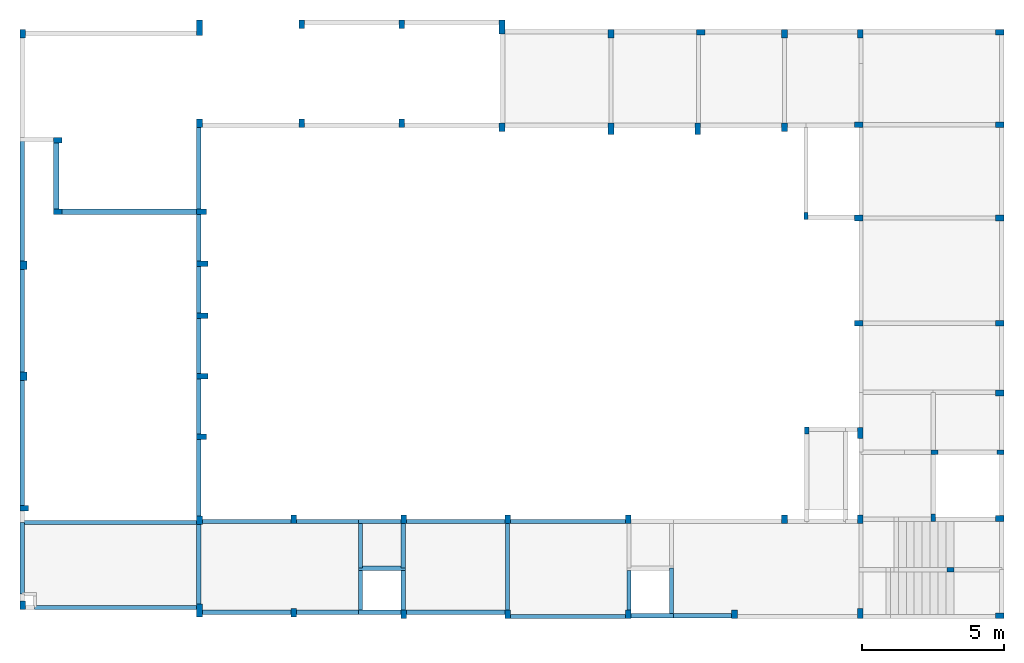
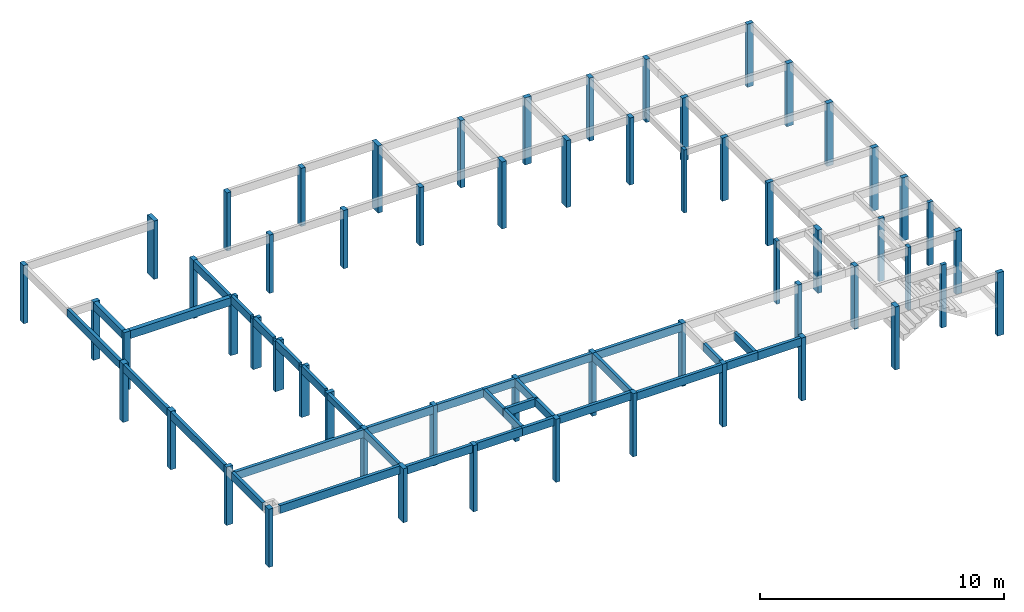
# One storey, part 1 of 11: 58 columns, 35 beams.
"""IFC4 building model written with IfcOpenShell, lengths in centimetres."""

from ifc_helpers import new_model, si_unit, derived_unit, frame, origin_with_axes, origin_2d_with_axis, place, context, project, spatial, rectangle, extrude, material, element, save


model = new_model("IFC4")

# Units and contexts
model_context = context("Model", 3, precision=1e-05, world=origin_with_axes(), identifier="Body")
ifc_project = project(units=[si_unit("LENGTHUNIT", "METRE", prefix="CENTI"), si_unit("VOLUMEUNIT", "CUBIC_METRE"), si_unit("AREAUNIT", "SQUARE_METRE"), si_unit("POWERUNIT", "WATT"), si_unit("LUMINOUSFLUXUNIT", "LUMEN"), si_unit("ELECTRICCURRENTUNIT", "AMPERE"), si_unit("PRESSUREUNIT", "PASCAL", prefix="KILO"), si_unit("MASSUNIT", "GRAM", prefix="KILO"), si_unit("PLANEANGLEUNIT", "RADIAN"), derived_unit("VOLUMETRICFLOWRATEUNIT", [(si_unit("LENGTHUNIT", "METRE"), 3), (si_unit("TIMEUNIT", "SECOND"), -1)])], contexts=[model_context])

# Site, building, storey
site_placement = place(None, origin_with_axes())
site = spatial("IfcSite", under=ifc_project, at=site_placement)
building_placement = place(site_placement, frame((0.0, 0.0, -295.0)))
building = spatial("IfcBuilding", under=site, at=building_placement)
placement_1 = place(building_placement, origin_with_axes())
placement_2 = place(placement_1, frame((0.0, 0.0, 101.0), z_axis=(0.0, 0.0, 1.0), x_axis=(1.0, 0.0, 0.0)))
placement_3 = place(placement_2, frame((0.0, 0.0, 204.0), z_axis=(0.0, 0.0, 1.0), x_axis=(1.0, 0.0, 0.0)))
storey_placement = place(placement_3, frame((0.0, 0.0, 292.0), z_axis=(0.0, 0.0, 1.0), x_axis=(1.0, 0.0, 0.0)))
storey = spatial("IfcBuildingStorey", under=building, at=storey_placement, Name="PAVTO 01", CompositionType="ELEMENT", Elevation=302.0)

# Columns
ifc_material = material(Name="Concreto")
column_1_placement = place(storey_placement, frame((561.73, -5119.55, 0.0), z_axis=(0.0, 0.0, 1.0), x_axis=(1.0, 0.0, 0.0)))
element("IfcColumn", 1, at=column_1_placement, inside=storey, material=ifc_material, Name="P1", context=model_context, shape_type="SolidModel", body=[
    extrude(rectangle(XDim=20.0, YDim=30.0, at=origin_2d_with_axis()), origin_with_axes(), (0.0, 0.0, -1.0), 292.0),
])
column_2_placement = place(storey_placement, frame((4001.76, -5114.55, 0.0), z_axis=(0.0, 0.0, 1.0), x_axis=(1.0, 0.0, 0.0)))
element("IfcColumn", 2, at=column_2_placement, inside=storey, material=ifc_material, Name="P10", context=model_context, shape_type="SolidModel", body=[
    extrude(rectangle(XDim=20.0, YDim=30.0, at=origin_2d_with_axis()), frame((0.0, 0.0, 0.0), z_axis=(0.0, 0.0, 1.0), x_axis=(0.0, 1.0, 0.0)), (0.0, 0.0, -1.0), 316.0),
])
for number, where, z_axis, x_axis, name in (
    (3, (1183.9, -5434.69, 0.0), (0.0, 0.0, 1.0), (1.0, 0.0, 0.0), "P11"),
    (4, (1544.4, -5434.69, 0.0), (0.0, 0.0, 1.0), (1.0, 0.0, 0.0), "P12"),
    (5, (1895.85, -5434.69, 0.0), (0.0, 0.0, 1.0), (1.0, 0.0, 0.0), "P13"),
    (6, (2248.73, -5449.62, 0.0), (0.0, 0.0, 1.0), (1.0, 0.0, 0.0), "P14"),
):
    element("IfcColumn", number, at=place(storey_placement, frame(where, z_axis=z_axis, x_axis=x_axis)), inside=storey, material=ifc_material, Name=name, context=model_context, shape_type="SolidModel", body=[
        extrude(rectangle(XDim=20.0, YDim=30.0, at=origin_2d_with_axis()), origin_with_axes(), (0.0, 0.0, -1.0), 292.0),
    ])
for number, where, z_axis, x_axis, name in (
    (7, (2632.84, -5454.62, 0.0), (0.0, 0.0, 1.0), (1.0, 0.0, 0.0), "P15"),
    (8, (2938.28, -5454.62, 0.0), (0.0, 0.0, 1.0), (1.0, 0.0, 0.0), "P16"),
):
    element("IfcColumn", number, at=place(storey_placement, frame(where, z_axis=z_axis, x_axis=x_axis)), inside=storey, material=ifc_material, Name=name, context=model_context, shape_type="SolidModel", body=[
        extrude(rectangle(XDim=20.0, YDim=40.0, at=origin_2d_with_axis()), origin_with_axes(), (0.0, 0.0, -1.0), 336.0),
    ])
column_3_placement = place(storey_placement, frame((3243.73, -5449.62, 0.0), z_axis=(0.0, 0.0, 1.0), x_axis=(1.0, 0.0, 0.0)))
element("IfcColumn", 9, at=column_3_placement, inside=storey, material=ifc_material, Name="P17", context=model_context, shape_type="SolidModel", body=[
    extrude(rectangle(XDim=20.0, YDim=30.0, at=origin_2d_with_axis()), origin_with_axes(), (0.0, 0.0, -1.0), 336.0),
])
for number, where, z_axis, x_axis, name in (
    (10, (3505.71, -5439.69, 0.0), (0.0, 0.0, 1.0), (1.0, 0.0, 0.0), "P18"),
    (11, (4001.74, -5439.69, 0.0), (0.0, 0.0, 1.0), (1.0, 0.0, 0.0), "P19"),
):
    element("IfcColumn", number, at=place(storey_placement, frame(where, z_axis=z_axis, x_axis=x_axis)), inside=storey, material=ifc_material, Name=name, context=model_context, shape_type="SolidModel", body=[
        extrude(rectangle(XDim=20.0, YDim=30.0, at=origin_2d_with_axis()), frame((0.0, 0.0, 0.0), z_axis=(0.0, 0.0, 1.0), x_axis=(0.0, -1.0, 0.0)), (0.0, 0.0, -1.0), 316.0),
    ])
column_4_placement = place(storey_placement, frame((1183.9, -5098.61, 0.0), z_axis=(0.0, 0.0, 1.0), x_axis=(1.0, 0.0, 0.0)))
element("IfcColumn", 12, at=column_4_placement, inside=storey, material=ifc_material, Name="P2", context=model_context, shape_type="SolidModel", body=[
    extrude(rectangle(XDim=20.0, YDim=55.0, at=origin_2d_with_axis()), origin_with_axes(), (0.0, 0.0, -1.0), 292.0),
])
for number, where, z_axis, x_axis, name in (
    (13, (683.93, -5494.16, 0.0), (0.0, 0.0, 1.0), (1.0, 0.0, 0.0), "P20"),
    (14, (683.93, -5746.84, 0.0), (0.0, 0.0, 1.0), (1.0, 0.0, 0.0), "P22"),
):
    element("IfcColumn", number, at=place(storey_placement, frame(where, z_axis=z_axis, x_axis=x_axis)), inside=storey, material=ifc_material, Name=name, context=model_context, shape_type="SolidModel", body=[
        extrude(rectangle(XDim=20.0, YDim=30.0, at=origin_2d_with_axis()), frame((0.0, 0.0, 0.0), z_axis=(0.0, 0.0, 1.0), x_axis=(0.0, 1.0, 0.0)), (0.0, 0.0, -1.0), 292.0),
    ])
column_5_placement = place(storey_placement, frame((1191.4, -5746.84, 0.0), z_axis=(0.0, 0.0, 1.0), x_axis=(1.0, 0.0, 0.0)))
element("IfcColumn", 15, at=column_5_placement, inside=storey, material=ifc_material, Name="P23", context=model_context, shape_type="SolidModel", body=[
    extrude(rectangle(XDim=20.0, YDim=35.0, at=origin_2d_with_axis()), frame((0.0, 0.0, 0.0), z_axis=(0.0, 0.0, 1.0), x_axis=(0.0, 1.0, 0.0)), (0.0, 0.0, -1.0), 292.0),
])
column_6_placement = place(storey_placement, frame((3319.4, -5761.05, 0.0), z_axis=(0.0, 0.0, 1.0), x_axis=(1.0, 0.0, 0.0)))
element("IfcColumn", 16, at=column_6_placement, inside=storey, material=ifc_material, Name="P24", context=model_context, shape_type="SolidModel", body=[
    extrude(rectangle(XDim=15.0, YDim=25.0, at=origin_2d_with_axis()), origin_with_axes(), (0.0, 0.0, -1.0), 316.0),
])
for number, where, z_axis, x_axis, name in (
    (17, (3505.73, -5768.55, 0.0), (0.0, 0.0, 1.0), (1.0, 0.0, 0.0), "P25"),
    (18, (4001.76, -5768.55, 0.0), (0.0, 0.0, 1.0), (1.0, 0.0, 0.0), "P26"),
):
    element("IfcColumn", number, at=place(storey_placement, frame(where, z_axis=z_axis, x_axis=x_axis)), inside=storey, material=ifc_material, Name=name, context=model_context, shape_type="SolidModel", body=[
        extrude(rectangle(XDim=20.0, YDim=30.0, at=origin_2d_with_axis()), frame((0.0, 0.0, 0.0), z_axis=(0.0, 0.0, 1.0), x_axis=(0.0, -1.0, 0.0)), (0.0, 0.0, -1.0), 316.0),
    ])
column_7_placement = place(storey_placement, frame((564.23, -5934.85, 0.0), z_axis=(0.0, 0.0, 1.0), x_axis=(1.0, 0.0, 0.0)))
element("IfcColumn", 19, at=column_7_placement, inside=storey, material=ifc_material, Name="P27", context=model_context, shape_type="SolidModel", body=[
    extrude(rectangle(XDim=25.0, YDim=30.0, at=origin_2d_with_axis()), origin_with_axes(), (0.0, 0.0, -1.0), 292.0),
])
column_8_placement = place(storey_placement, frame((1193.9, -5929.85, 0.0), z_axis=(0.0, 0.0, 1.0), x_axis=(1.0, 0.0, 0.0)))
element("IfcColumn", 20, at=column_8_placement, inside=storey, material=ifc_material, Name="P28", context=model_context, shape_type="SolidModel", body=[
    extrude(rectangle(XDim=20.0, YDim=40.0, at=origin_2d_with_axis()), frame((0.0, 0.0, 0.0), z_axis=(0.0, 0.0, 1.0), x_axis=(0.0, -1.0, 0.0)), (0.0, 0.0, -1.0), 251.0),
])
column_9_placement = place(storey_placement, frame((1193.9, -6112.7, 0.0), z_axis=(0.0, 0.0, 1.0), x_axis=(1.0, 0.0, 0.0)))
element("IfcColumn", 21, at=column_9_placement, inside=storey, material=ifc_material, Name="P29", context=model_context, shape_type="SolidModel", body=[
    extrude(rectangle(XDim=20.0, YDim=40.0, at=origin_2d_with_axis()), frame((0.0, 0.0, 0.0), z_axis=(0.0, 0.0, 1.0), x_axis=(0.0, 1.0, 0.0)), (0.0, 0.0, -1.0), 251.0),
])
column_10_placement = place(storey_placement, frame((1544.4, -5086.11, 0.0), z_axis=(0.0, 0.0, 1.0), x_axis=(1.0, 0.0, 0.0)))
element("IfcColumn", 22, at=column_10_placement, inside=storey, material=ifc_material, Name="P3", context=model_context, shape_type="SolidModel", body=[
    extrude(rectangle(XDim=20.0, YDim=30.0, at=origin_2d_with_axis()), origin_with_axes(), (0.0, 0.0, -1.0), 292.0),
])
for number, where, z_axis, x_axis, name in (
    (23, (3505.73, -6138.55, 0.0), (0.0, 0.0, 1.0), (1.0, 0.0, 0.0), "P30"),
    (24, (4001.76, -6138.55, 0.0), (0.0, 0.0, 1.0), (1.0, 0.0, 0.0), "P31"),
):
    element("IfcColumn", number, at=place(storey_placement, frame(where, z_axis=z_axis, x_axis=x_axis)), inside=storey, material=ifc_material, Name=name, context=model_context, shape_type="SolidModel", body=[
        extrude(rectangle(XDim=20.0, YDim=30.0, at=origin_2d_with_axis()), frame((0.0, 0.0, 0.0), z_axis=(0.0, 0.0, 1.0), x_axis=(0.0, -1.0, 0.0)), (0.0, 0.0, -1.0), 316.0),
    ])
column_11_placement = place(storey_placement, frame((564.23, -6325.62, 0.0), z_axis=(0.0, 0.0, 1.0), x_axis=(1.0, 0.0, 0.0)))
element("IfcColumn", 25, at=column_11_placement, inside=storey, material=ifc_material, Name="P32", context=model_context, shape_type="SolidModel", body=[
    extrude(rectangle(XDim=25.0, YDim=30.0, at=origin_2d_with_axis()), origin_with_axes(), (0.0, 0.0, -1.0), 292.0),
])
column_12_placement = place(storey_placement, frame((1193.9, -6325.62, 0.0), z_axis=(0.0, 0.0, 1.0), x_axis=(1.0, 0.0, 0.0)))
element("IfcColumn", 26, at=column_12_placement, inside=storey, material=ifc_material, Name="P33", context=model_context, shape_type="SolidModel", body=[
    extrude(rectangle(XDim=20.0, YDim=40.0, at=origin_2d_with_axis()), frame((0.0, 0.0, 0.0), z_axis=(0.0, 0.0, 1.0), x_axis=(0.0, 1.0, 0.0)), (0.0, 0.0, -1.0), 251.0),
])
column_13_placement = place(storey_placement, frame((4001.76, -6384.65, 0.0), z_axis=(0.0, 0.0, 1.0), x_axis=(1.0, 0.0, 0.0)))
element("IfcColumn", 27, at=column_13_placement, inside=storey, material=ifc_material, Name="P34", context=model_context, shape_type="SolidModel", body=[
    extrude(rectangle(XDim=20.0, YDim=30.0, at=origin_2d_with_axis()), frame((0.0, 0.0, 0.0), z_axis=(0.0, 0.0, 1.0), x_axis=(0.0, -1.0, 0.0)), (0.0, 0.0, -1.0), 316.0),
])
column_14_placement = place(storey_placement, frame((1191.4, -6538.55, 0.0), z_axis=(0.0, 0.0, 1.0), x_axis=(1.0, 0.0, 0.0)))
element("IfcColumn", 28, at=column_14_placement, inside=storey, material=ifc_material, Name="P35", context=model_context, shape_type="SolidModel", body=[
    extrude(rectangle(XDim=20.0, YDim=35.0, at=origin_2d_with_axis()), frame((0.0, 0.0, 0.0), z_axis=(0.0, 0.0, 1.0), x_axis=(0.0, 1.0, 0.0)), (0.0, 0.0, -1.0), 251.0),
])
column_15_placement = place(storey_placement, frame((3322.23, -6516.7, 0.0), z_axis=(0.0, 0.0, 1.0), x_axis=(1.0, 0.0, 0.0)))
element("IfcColumn", 29, at=column_15_placement, inside=storey, material=ifc_material, Name="P36", context=model_context, shape_type="SolidModel", body=[
    extrude(rectangle(XDim=15.0, YDim=25.0, at=origin_2d_with_axis()), origin_with_axes(), (0.0, 0.0, -1.0), 316.0),
])
column_16_placement = place(storey_placement, frame((3510.73, -6525.55, 0.0), z_axis=(0.0, 0.0, 1.0), x_axis=(1.0, 0.0, 0.0)))
element("IfcColumn", 30, at=column_16_placement, inside=storey, material=ifc_material, Name="P37", context=model_context, shape_type="SolidModel", body=[
    extrude(rectangle(XDim=20.0, YDim=40.0, at=origin_2d_with_axis()), origin_with_axes(), (0.0, 0.0, -1.0), 316.0),
])
for number, where, z_axis, x_axis, name in (
    (31, (3772.23, -6592.81, 0.0), (0.0, 0.0, 1.0), (1.0, 0.0, 0.0), "P38"),
    (32, (4004.23, -6592.81, 0.0), (0.0, 0.0, 1.0), (1.0, 0.0, 0.0), "P39"),
):
    element("IfcColumn", number, at=place(storey_placement, frame(where, z_axis=z_axis, x_axis=x_axis)), inside=storey, material=ifc_material, Name=name, context=model_context, shape_type="SolidModel", body=[
        extrude(rectangle(XDim=15.0, YDim=25.0, at=origin_2d_with_axis()), frame((0.0, 0.0, 0.0), z_axis=(0.0, 0.0, 1.0), x_axis=(0.0, 1.0, 0.0)), (0.0, 0.0, -1.0), 316.0),
    ])
column_17_placement = place(storey_placement, frame((1895.85, -5086.11, 0.0), z_axis=(0.0, 0.0, 1.0), x_axis=(1.0, 0.0, 0.0)))
element("IfcColumn", 33, at=column_17_placement, inside=storey, material=ifc_material, Name="P4", context=model_context, shape_type="SolidModel", body=[
    extrude(rectangle(XDim=20.0, YDim=30.0, at=origin_2d_with_axis()), origin_with_axes(), (0.0, 0.0, -1.0), 292.0),
])
column_18_placement = place(storey_placement, frame((566.73, -6790.04, 0.0), z_axis=(0.0, 0.0, 1.0), x_axis=(1.0, 0.0, 0.0)))
element("IfcColumn", 34, at=column_18_placement, inside=storey, material=ifc_material, Name="P40", context=model_context, shape_type="SolidModel", body=[
    extrude(rectangle(XDim=20.0, YDim=30.0, at=origin_2d_with_axis()), frame((0.0, 0.0, 0.0), z_axis=(0.0, 0.0, 1.0), x_axis=(0.0, 1.0, 0.0)), (0.0, 0.0, -1.0), 292.0),
])
column_19_placement = place(storey_placement, frame((1183.9, -6833.35, 0.0), z_axis=(0.0, 0.0, 1.0), x_axis=(1.0, 0.0, 0.0)))
element("IfcColumn", 35, at=column_19_placement, inside=storey, material=ifc_material, Name="P41", context=model_context, shape_type="SolidModel", body=[
    extrude(rectangle(XDim=20.0, YDim=30.0, at=origin_2d_with_axis()), origin_with_axes(), (0.0, 0.0, -1.0), 271.0),
])
column_20_placement = place(storey_placement, frame((1515.96, -6829.2, 0.0), z_axis=(0.0, 0.0, 1.0), x_axis=(1.0, 0.0, 0.0)))
element("IfcColumn", 36, at=column_20_placement, inside=storey, material=ifc_material, Name="P42", context=model_context, shape_type="SolidModel", body=[
    extrude(rectangle(XDim=20.0, YDim=30.0, at=origin_2d_with_axis()), origin_with_axes(), (0.0, 0.0, -1.0), 301.0),
])
for number, where, z_axis, x_axis, name in (
    (37, (1903.6, -6829.2, 0.0), (0.0, 0.0, 1.0), (1.0, 0.0, 0.0), "P43"),
    (38, (2268.73, -6829.2, 0.0), (0.0, 0.0, 1.0), (1.0, 0.0, 0.0), "P44"),
    (39, (2693.6, -6829.2, 0.0), (0.0, 0.0, 1.0), (1.0, 0.0, 0.0), "P45"),
    (40, (3243.73, -6829.2, 0.0), (0.0, 0.0, 1.0), (1.0, 0.0, 0.0), "P46"),
    (41, (3510.73, -6829.2, 0.0), (0.0, 0.0, 1.0), (1.0, 0.0, 0.0), "P47"),
):
    element("IfcColumn", number, at=place(storey_placement, frame(where, z_axis=z_axis, x_axis=x_axis)), inside=storey, material=ifc_material, Name=name, context=model_context, shape_type="SolidModel", body=[
        extrude(rectangle(XDim=20.0, YDim=30.0, at=origin_2d_with_axis()), origin_with_axes(), (0.0, 0.0, -1.0), 316.0),
    ])
column_21_placement = place(storey_placement, frame((3767.23, -6823.79, 0.0), z_axis=(0.0, 0.0, 1.0), x_axis=(1.0, 0.0, 0.0)))
element("IfcColumn", 42, at=column_21_placement, inside=storey, material=ifc_material, Name="P48", context=model_context, shape_type="SolidModel", body=[
    extrude(rectangle(XDim=15.0, YDim=25.0, at=origin_2d_with_axis()), origin_with_axes(), (0.0, 0.0, -1.0), 316.0),
])
column_22_placement = place(storey_placement, frame((4001.75, -6826.29, 0.0), z_axis=(0.0, 0.0, 1.0), x_axis=(1.0, 0.0, 0.0)))
element("IfcColumn", 43, at=column_22_placement, inside=storey, material=ifc_material, Name="P49", context=model_context, shape_type="SolidModel", body=[
    extrude(rectangle(XDim=20.0, YDim=30.0, at=origin_2d_with_axis()), frame((0.0, 0.0, 0.0), z_axis=(0.0, 0.0, 1.0), x_axis=(0.0, 1.0, 0.0)), (0.0, 0.0, -1.0), 316.0),
])
column_23_placement = place(storey_placement, frame((2248.73, -5096.25, 0.0), z_axis=(0.0, 0.0, 1.0), x_axis=(1.0, 0.0, 0.0)))
element("IfcColumn", 44, at=column_23_placement, inside=storey, material=ifc_material, Name="P5", context=model_context, shape_type="SolidModel", body=[
    extrude(rectangle(XDim=20.0, YDim=50.0, at=origin_2d_with_axis()), origin_with_axes(), (0.0, 0.0, -1.0), 336.0),
])
column_24_placement = place(storey_placement, frame((3828.09, -7006.81, 0.0), z_axis=(0.0, 0.0, 1.0), x_axis=(1.0, 0.0, 0.0)))
element("IfcColumn", 45, at=column_24_placement, inside=storey, material=ifc_material, Name="P50", context=model_context, shape_type="SolidModel", body=[
    extrude(rectangle(XDim=15.0, YDim=25.0, at=origin_2d_with_axis()), frame((0.0, 0.0, 0.0), z_axis=(0.0, 0.0, 1.0), x_axis=(0.0, -1.0, 0.0)), (0.0, 0.0, -1.0), 316.0),
])
column_25_placement = place(storey_placement, frame((561.73, -7132.2, 0.0), z_axis=(0.0, 0.0, 1.0), x_axis=(1.0, 0.0, 0.0)))
element("IfcColumn", 46, at=column_25_placement, inside=storey, material=ifc_material, Name="P51", context=model_context, shape_type="SolidModel", body=[
    extrude(rectangle(XDim=20.0, YDim=30.0, at=origin_2d_with_axis()), frame((0.0, 0.0, 0.0), z_axis=(0.0, 0.0, 1.0), x_axis=(-1.0, 0.0, 0.0)), (0.0, 0.0, -1.0), 292.0),
])
column_26_placement = place(storey_placement, frame((1183.9, -7150.43, 0.0), z_axis=(0.0, 0.0, 1.0), x_axis=(1.0, 0.0, 0.0)))
element("IfcColumn", 47, at=column_26_placement, inside=storey, material=ifc_material, Name="P52", context=model_context, shape_type="SolidModel", body=[
    extrude(rectangle(XDim=20.0, YDim=45.0, at=origin_2d_with_axis()), frame((0.0, 0.0, 0.0), z_axis=(0.0, 0.0, 1.0), x_axis=(-1.0, 0.0, 0.0)), (0.0, 0.0, -1.0), 270.0),
])
column_27_placement = place(storey_placement, frame((1515.96, -7157.93, 0.0), z_axis=(0.0, 0.0, 1.0), x_axis=(1.0, 0.0, 0.0)))
element("IfcColumn", 48, at=column_27_placement, inside=storey, material=ifc_material, Name="P53", context=model_context, shape_type="SolidModel", body=[
    extrude(rectangle(XDim=20.0, YDim=30.0, at=origin_2d_with_axis()), origin_with_axes(), (0.0, 0.0, -1.0), 332.0),
])
for number, where, z_axis, x_axis, name in (
    (49, (1903.6, -7164.31, 0.0), (0.0, 0.0, 1.0), (1.0, 0.0, 0.0), "P54"),
    (50, (2268.73, -7164.31, 0.0), (0.0, 0.0, 1.0), (1.0, 0.0, 0.0), "P55"),
    (51, (2693.6, -7164.31, 0.0), (0.0, 0.0, 1.0), (1.0, 0.0, 0.0), "P56"),
    (52, (3067.54, -7164.31, 0.0), (0.0, 0.0, 1.0), (1.0, 0.0, 0.0), "P57"),
):
    element("IfcColumn", number, at=place(storey_placement, frame(where, z_axis=z_axis, x_axis=x_axis)), inside=storey, material=ifc_material, Name=name, context=model_context, shape_type="SolidModel", body=[
        extrude(rectangle(XDim=20.0, YDim=30.0, at=origin_2d_with_axis()), origin_with_axes(), (0.0, 0.0, -1.0), 316.0),
    ])
column_28_placement = place(storey_placement, frame((3510.73, -7161.81, 0.0), z_axis=(0.0, 0.0, 1.0), x_axis=(1.0, 0.0, 0.0)))
element("IfcColumn", 53, at=column_28_placement, inside=storey, material=ifc_material, Name="P58", context=model_context, shape_type="SolidModel", body=[
    extrude(rectangle(XDim=20.0, YDim=35.0, at=origin_2d_with_axis()), frame((0.0, 0.0, 0.0), z_axis=(0.0, 0.0, 1.0), x_axis=(-1.0, 0.0, 0.0)), (0.0, 0.0, -1.0), 316.0),
])
column_29_placement = place(storey_placement, frame((4001.76, -7169.31, 0.0), z_axis=(0.0, 0.0, 1.0), x_axis=(1.0, 0.0, 0.0)))
element("IfcColumn", 54, at=column_29_placement, inside=storey, material=ifc_material, Name="P59", context=model_context, shape_type="SolidModel", body=[
    extrude(rectangle(XDim=20.0, YDim=30.0, at=origin_2d_with_axis()), frame((0.0, 0.0, 0.0), z_axis=(0.0, 0.0, 1.0), x_axis=(0.0, -1.0, 0.0)), (0.0, 0.0, -1.0), 316.0),
])
column_30_placement = place(storey_placement, frame((2632.84, -5119.55, 0.0), z_axis=(0.0, 0.0, 1.0), x_axis=(1.0, 0.0, 0.0)))
element("IfcColumn", 55, at=column_30_placement, inside=storey, material=ifc_material, Name="P6", context=model_context, shape_type="SolidModel", body=[
    extrude(rectangle(XDim=20.0, YDim=30.0, at=origin_2d_with_axis()), origin_with_axes(), (0.0, 0.0, -1.0), 336.0),
])
column_31_placement = place(storey_placement, frame((2948.28, -5114.55, 0.0), z_axis=(0.0, 0.0, 1.0), x_axis=(1.0, 0.0, 0.0)))
element("IfcColumn", 56, at=column_31_placement, inside=storey, material=ifc_material, Name="P7", context=model_context, shape_type="SolidModel", body=[
    extrude(rectangle(XDim=20.0, YDim=30.0, at=origin_2d_with_axis()), frame((0.0, 0.0, 0.0), z_axis=(0.0, 0.0, 1.0), x_axis=(0.0, 1.0, 0.0)), (0.0, 0.0, -1.0), 336.0),
])
column_32_placement = place(storey_placement, frame((3243.73, -5119.55, 0.0), z_axis=(0.0, 0.0, 1.0), x_axis=(1.0, 0.0, 0.0)))
element("IfcColumn", 57, at=column_32_placement, inside=storey, material=ifc_material, Name="P8", context=model_context, shape_type="SolidModel", body=[
    extrude(rectangle(XDim=20.0, YDim=30.0, at=origin_2d_with_axis()), origin_with_axes(), (0.0, 0.0, -1.0), 316.0),
])
column_33_placement = place(storey_placement, frame((3510.73, -5119.55, 0.0), z_axis=(0.0, 0.0, 1.0), x_axis=(1.0, 0.0, 0.0)))
element("IfcColumn", 58, at=column_33_placement, inside=storey, material=ifc_material, Name="P9", context=model_context, shape_type="SolidModel", body=[
    extrude(rectangle(XDim=20.0, YDim=30.0, at=origin_2d_with_axis()), frame((0.0, 0.0, 0.0), z_axis=(0.0, 0.0, 1.0), x_axis=(-1.0, 0.0, 0.0)), (0.0, 0.0, -1.0), 316.0),
])

# Beams
beam_1_placement = place(storey_placement, frame((936.415, -5746.84, 0.0), z_axis=(0.0, 0.0, 1.0), x_axis=(1.0, 0.0, 0.0)))
element("IfcBeam", 59, at=beam_1_placement, inside=storey, material=ifc_material, Name="V107", context=model_context, shape_type="SolidModel", body=[
    extrude(rectangle(XDim=20.0, YDim=40.0, at=origin_2d_with_axis()), frame((-237.485, 0.0, -20.0), z_axis=(1.0, 0.0, 0.0), x_axis=(0.0, -1.0, 0.0)), (0.0, 0.0, 1.0), 474.97),
])
beam_2_placement = place(storey_placement, frame((866.565, -6840.85, 0.0), z_axis=(0.0, 0.0, 1.0), x_axis=(1.0, 0.0, 0.0)))
element("IfcBeam", 60, at=beam_2_placement, inside=storey, material=ifc_material, Name="V114", context=model_context, shape_type="SolidModel", body=[
    extrude(rectangle(XDim=15.0, YDim=40.0, at=origin_2d_with_axis()), frame((-307.335, 0.0, -20.0), z_axis=(1.0, 0.0, 0.0), x_axis=(0.0, -1.0, 0.0)), (0.0, 0.0, 1.0), 614.67),
])
beam_3_placement = place(storey_placement, frame((2481.165, -6836.7, 0.0), z_axis=(0.0, 0.0, 1.0), x_axis=(1.0, 0.0, 0.0)))
element("IfcBeam", 61, at=beam_3_placement, inside=storey, material=ifc_material, Name="V115", context=model_context, shape_type="SolidModel", body=[
    extrude(rectangle(XDim=15.0, YDim=40.0, at=origin_2d_with_axis()), frame((-202.435, 0.0, -20.0), z_axis=(1.0, 0.0, 0.0), x_axis=(0.0, -1.0, 0.0)), (0.0, 0.0, 1.0), 404.87),
])
beam_4_placement = place(storey_placement, frame((1818.6, -6836.7, 0.0), z_axis=(0.0, 0.0, 1.0), x_axis=(1.0, 0.0, 0.0)))
element("IfcBeam", 62, at=beam_4_placement, inside=storey, material=ifc_material, Name="V115", context=model_context, shape_type="SolidModel", body=[
    extrude(rectangle(XDim=15.0, YDim=40.0, at=origin_2d_with_axis()), frame((-75.0, 0.0, -20.0), z_axis=(1.0, 0.0, 0.0), x_axis=(0.0, -1.0, 0.0)), (0.0, 0.0, 1.0), 150.0),
])
beam_5_placement = place(storey_placement, frame((1638.53, -6836.7, 0.0), z_axis=(0.0, 0.0, 1.0), x_axis=(1.0, 0.0, 0.0)))
element("IfcBeam", 63, at=beam_5_placement, inside=storey, material=ifc_material, Name="V115", context=model_context, shape_type="SolidModel", body=[
    extrude(rectangle(XDim=15.0, YDim=40.0, at=origin_2d_with_axis()), frame((-112.57, 0.0, -20.0), z_axis=(1.0, 0.0, 0.0), x_axis=(0.0, -1.0, 0.0)), (0.0, 0.0, 1.0), 225.14),
])
beam_6_placement = place(storey_placement, frame((2086.165, -6836.7, 0.0), z_axis=(0.0, 0.0, 1.0), x_axis=(1.0, 0.0, 0.0)))
element("IfcBeam", 64, at=beam_6_placement, inside=storey, material=ifc_material, Name="V115", context=model_context, shape_type="SolidModel", body=[
    extrude(rectangle(XDim=15.0, YDim=40.0, at=origin_2d_with_axis()), frame((-172.565, 0.0, -20.0), z_axis=(1.0, 0.0, 0.0), x_axis=(0.0, -1.0, 0.0)), (0.0, 0.0, 1.0), 345.13),
])
beam_7_placement = place(storey_placement, frame((1349.93, -6836.7, 0.0), z_axis=(0.0, 0.0, 1.0), x_axis=(1.0, 0.0, 0.0)))
element("IfcBeam", 65, at=beam_7_placement, inside=storey, material=ifc_material, Name="V115", context=model_context, shape_type="SolidModel", body=[
    extrude(rectangle(XDim=15.0, YDim=40.0, at=origin_2d_with_axis()), frame((-156.03, 0.0, -20.0), z_axis=(1.0, 0.0, 0.0), x_axis=(0.0, -1.0, 0.0)), (0.0, 0.0, 1.0), 312.06),
])
beam_8_placement = place(storey_placement, frame((1826.1, -7001.64, 0.0), z_axis=(0.0, 0.0, 1.0), x_axis=(1.0, 0.0, 0.0)))
element("IfcBeam", 66, at=beam_8_placement, inside=storey, material=ifc_material, Name="V117", context=model_context, shape_type="SolidModel", body=[
    extrude(rectangle(XDim=15.0, YDim=40.0, at=origin_2d_with_axis()), frame((-82.5, 0.0, -20.0), z_axis=(1.0, 0.0, 0.0), x_axis=(0.0, -1.0, 0.0)), (0.0, 0.0, 1.0), 165.0),
])
beam_9_placement = place(storey_placement, frame((888.675, -7139.7, 0.0), z_axis=(0.0, 0.0, 1.0), x_axis=(1.0, 0.0, 0.0)))
element("IfcBeam", 67, at=beam_9_placement, inside=storey, material=ifc_material, Name="V121", context=model_context, shape_type="SolidModel", body=[
    extrude(rectangle(XDim=15.0, YDim=40.0, at=origin_2d_with_axis()), frame((-285.225, 0.0, -20.0), z_axis=(1.0, 0.0, 0.0), x_axis=(0.0, -1.0, 0.0)), (0.0, 0.0, 1.0), 570.45),
])
beam_10_placement = place(storey_placement, frame((1818.6, -7156.81, 0.0), z_axis=(0.0, 0.0, 1.0), x_axis=(1.0, 0.0, 0.0)))
element("IfcBeam", 68, at=beam_10_placement, inside=storey, material=ifc_material, Name="V122", context=model_context, shape_type="SolidModel", body=[
    extrude(rectangle(XDim=15.0, YDim=40.0, at=origin_2d_with_axis()), frame((-75.0, 0.0, -20.0), z_axis=(1.0, 0.0, 0.0), x_axis=(0.0, -1.0, 0.0)), (0.0, 0.0, 1.0), 150.0),
])
beam_11_placement = place(storey_placement, frame((1638.53, -7156.81, 0.0), z_axis=(0.0, 0.0, 1.0), x_axis=(1.0, 0.0, 0.0)))
element("IfcBeam", 69, at=beam_11_placement, inside=storey, material=ifc_material, Name="V122", context=model_context, shape_type="SolidModel", body=[
    extrude(rectangle(XDim=15.0, YDim=40.0, at=origin_2d_with_axis()), frame((-112.57, 0.0, -20.0), z_axis=(1.0, 0.0, 0.0), x_axis=(0.0, -1.0, 0.0)), (0.0, 0.0, 1.0), 225.14),
])
beam_12_placement = place(storey_placement, frame((2086.165, -7156.81, 0.0), z_axis=(0.0, 0.0, 1.0), x_axis=(1.0, 0.0, 0.0)))
element("IfcBeam", 70, at=beam_12_placement, inside=storey, material=ifc_material, Name="V122", context=model_context, shape_type="SolidModel", body=[
    extrude(rectangle(XDim=15.0, YDim=40.0, at=origin_2d_with_axis()), frame((-172.565, 0.0, -20.0), z_axis=(1.0, 0.0, 0.0), x_axis=(0.0, -1.0, 0.0)), (0.0, 0.0, 1.0), 345.13),
])
beam_13_placement = place(storey_placement, frame((1349.93, -7156.81, 0.0), z_axis=(0.0, 0.0, 1.0), x_axis=(1.0, 0.0, 0.0)))
element("IfcBeam", 71, at=beam_13_placement, inside=storey, material=ifc_material, Name="V122", context=model_context, shape_type="SolidModel", body=[
    extrude(rectangle(XDim=15.0, YDim=40.0, at=origin_2d_with_axis()), frame((-156.03, 0.0, -20.0), z_axis=(1.0, 0.0, 0.0), x_axis=(0.0, -1.0, 0.0)), (0.0, 0.0, 1.0), 312.06),
])
beam_14_placement = place(storey_placement, frame((2481.165, -7171.81, 0.0), z_axis=(0.0, 0.0, 1.0), x_axis=(1.0, 0.0, 0.0)))
element("IfcBeam", 72, at=beam_14_placement, inside=storey, material=ifc_material, Name="V123", context=model_context, shape_type="SolidModel", body=[
    extrude(rectangle(XDim=15.0, YDim=40.0, at=origin_2d_with_axis()), frame((-202.435, 0.0, -20.0), z_axis=(1.0, 0.0, 0.0), x_axis=(0.0, -1.0, 0.0)), (0.0, 0.0, 1.0), 404.87),
])
beam_15_placement = place(storey_placement, frame((2951.82, -7169.35, 0.0), z_axis=(0.0, 0.0, 1.0), x_axis=(1.0, 0.0, 0.0)))
element("IfcBeam", 73, at=beam_15_placement, inside=storey, material=ifc_material, Name="V124", context=model_context, shape_type="SolidModel", body=[
    extrude(rectangle(XDim=15.0, YDim=40.0, at=origin_2d_with_axis()), frame((-105.72, 0.0, -20.0), z_axis=(1.0, 0.0, 0.0), x_axis=(0.0, -1.0, 0.0)), (0.0, 0.0, 1.0), 211.44),
])
beam_16_placement = place(storey_placement, frame((2778.6, -7169.35, 0.0), z_axis=(0.0, 0.0, 1.0), x_axis=(1.0, 0.0, 0.0)))
element("IfcBeam", 74, at=beam_16_placement, inside=storey, material=ifc_material, Name="V124", context=model_context, shape_type="SolidModel", body=[
    extrude(rectangle(XDim=15.0, YDim=40.0, at=origin_2d_with_axis()), frame((-75.0, 0.0, -20.0), z_axis=(1.0, 0.0, 0.0), x_axis=(0.0, -1.0, 0.0)), (0.0, 0.0, 1.0), 150.0),
])
beam_17_placement = place(storey_placement, frame((559.23, -5705.755, 0.0), z_axis=(0.0, 0.0, 1.0), x_axis=(1.0, 0.0, 0.0)))
element("IfcBeam", 75, at=beam_17_placement, inside=storey, material=ifc_material, Name="V127", context=model_context, shape_type="SolidModel", body=[
    extrude(rectangle(XDim=15.0, YDim=40.0, at=origin_2d_with_axis()), frame((0.0, -214.095, -20.0), z_axis=(0.0, 1.0, 0.0), x_axis=(1.0, 0.0, 0.0)), (0.0, 0.0, 1.0), 428.19),
])
beam_18_placement = place(storey_placement, frame((559.23, -6130.235, 0.0), z_axis=(0.0, 0.0, 1.0), x_axis=(1.0, 0.0, 0.0)))
element("IfcBeam", 76, at=beam_18_placement, inside=storey, material=ifc_material, Name="V127", context=model_context, shape_type="SolidModel", body=[
    extrude(rectangle(XDim=15.0, YDim=40.0, at=origin_2d_with_axis()), frame((0.0, -180.385, -20.0), z_axis=(0.0, 1.0, 0.0), x_axis=(1.0, 0.0, 0.0)), (0.0, 0.0, 1.0), 360.77),
])
beam_19_placement = place(storey_placement, frame((559.23, -6560.33, 0.0), z_axis=(0.0, 0.0, 1.0), x_axis=(1.0, 0.0, 0.0)))
element("IfcBeam", 77, at=beam_19_placement, inside=storey, material=ifc_material, Name="V127", context=model_context, shape_type="SolidModel", body=[
    extrude(rectangle(XDim=15.0, YDim=40.0, at=origin_2d_with_axis()), frame((0.0, -219.71, -20.0), z_axis=(0.0, 1.0, 0.0), x_axis=(1.0, 0.0, 0.0)), (0.0, 0.0, 1.0), 439.42),
])
beam_20_placement = place(storey_placement, frame((559.23, -6967.025, 0.0), z_axis=(0.0, 0.0, 1.0), x_axis=(1.0, 0.0, 0.0)))
element("IfcBeam", 78, at=beam_20_placement, inside=storey, material=ifc_material, Name="V127", context=model_context, shape_type="SolidModel", body=[
    extrude(rectangle(XDim=15.0, YDim=40.0, at=origin_2d_with_axis()), frame((0.0, -126.175, -20.0), z_axis=(0.0, 1.0, 0.0), x_axis=(1.0, 0.0, 0.0)), (0.0, 0.0, 1.0), 252.35),
])
beam_21_placement = place(storey_placement, frame((678.93, -5620.5, 0.0), z_axis=(0.0, 0.0, 1.0), x_axis=(1.0, 0.0, 0.0)))
element("IfcBeam", 79, at=beam_21_placement, inside=storey, material=ifc_material, Name="V128", context=model_context, shape_type="SolidModel", body=[
    extrude(rectangle(XDim=20.0, YDim=40.0, at=origin_2d_with_axis()), frame((0.0, -116.34, -20.0), z_axis=(0.0, 1.0, 0.0), x_axis=(1.0, 0.0, 0.0)), (0.0, 0.0, 1.0), 232.68),
])
beam_22_placement = place(storey_placement, frame((1181.4, -6988.14, 0.0), z_axis=(0.0, 0.0, 1.0), x_axis=(1.0, 0.0, 0.0)))
element("IfcBeam", 80, at=beam_22_placement, inside=storey, material=ifc_material, Name="V129", context=model_context, shape_type="SolidModel", body=[
    extrude(rectangle(XDim=15.0, YDim=40.0, at=origin_2d_with_axis()), frame((0.0, -139.79, -20.0), z_axis=(0.0, 1.0, 0.0), x_axis=(1.0, 0.0, 0.0)), (0.0, 0.0, 1.0), 279.58),
])
beam_23_placement = place(storey_placement, frame((1181.4, -6683.45, 0.0), z_axis=(0.0, 0.0, 1.0), x_axis=(1.0, 0.0, 0.0)))
element("IfcBeam", 81, at=beam_23_placement, inside=storey, material=ifc_material, Name="V130", context=model_context, shape_type="SolidModel", body=[
    extrude(rectangle(XDim=15.0, YDim=30.0, at=origin_2d_with_axis()), frame((0.0, -134.9, -15.0), z_axis=(0.0, 1.0, 0.0), x_axis=(1.0, 0.0, 0.0)), (0.0, 0.0, 1.0), 269.8),
])
beam_24_placement = place(storey_placement, frame((1181.4, -6219.16, 10.0), z_axis=(0.0, 0.0, 1.0), x_axis=(1.0, 0.0, 0.0)))
element("IfcBeam", 82, at=beam_24_placement, inside=storey, material=ifc_material, Name="V131", context=model_context, shape_type="SolidModel", body=[
    extrude(rectangle(XDim=15.0, YDim=40.0, at=origin_2d_with_axis()), frame((0.0, -96.46, -20.0), z_axis=(0.0, 1.0, 0.0), x_axis=(1.0, 0.0, 0.0)), (0.0, 0.0, 1.0), 192.92),
])
beam_25_placement = place(storey_placement, frame((1181.4, -5838.345, 10.0), z_axis=(0.0, 0.0, 1.0), x_axis=(1.0, 0.0, 0.0)))
element("IfcBeam", 83, at=beam_25_placement, inside=storey, material=ifc_material, Name="V131", context=model_context, shape_type="SolidModel", body=[
    extrude(rectangle(XDim=15.0, YDim=40.0, at=origin_2d_with_axis()), frame((0.0, -81.505, -20.0), z_axis=(0.0, 1.0, 0.0), x_axis=(1.0, 0.0, 0.0)), (0.0, 0.0, 1.0), 163.01),
])
beam_26_placement = place(storey_placement, frame((1181.4, -6021.275, 10.0), z_axis=(0.0, 0.0, 1.0), x_axis=(1.0, 0.0, 0.0)))
element("IfcBeam", 84, at=beam_26_placement, inside=storey, material=ifc_material, Name="V131", context=model_context, shape_type="SolidModel", body=[
    extrude(rectangle(XDim=15.0, YDim=40.0, at=origin_2d_with_axis()), frame((0.0, -81.425, -20.0), z_axis=(0.0, 1.0, 0.0), x_axis=(1.0, 0.0, 0.0)), (0.0, 0.0, 1.0), 162.85),
])
beam_27_placement = place(storey_placement, frame((1181.4, -6432.085, 10.0), z_axis=(0.0, 0.0, 1.0), x_axis=(1.0, 0.0, 0.0)))
element("IfcBeam", 85, at=beam_27_placement, inside=storey, material=ifc_material, Name="V131", context=model_context, shape_type="SolidModel", body=[
    extrude(rectangle(XDim=15.0, YDim=40.0, at=origin_2d_with_axis()), frame((0.0, -96.465, -20.0), z_axis=(0.0, 1.0, 0.0), x_axis=(1.0, 0.0, 0.0)), (0.0, 0.0, 1.0), 192.93),
])
beam_28_placement = place(storey_placement, frame((1181.4, -5593.265, 0.0), z_axis=(0.0, 0.0, 1.0), x_axis=(1.0, 0.0, 0.0)))
element("IfcBeam", 86, at=beam_28_placement, inside=storey, material=ifc_material, Name="V132", context=model_context, shape_type="SolidModel", body=[
    extrude(rectangle(XDim=15.0, YDim=40.0, at=origin_2d_with_axis()), frame((0.0, -143.575, -20.0), z_axis=(0.0, 1.0, 0.0), x_axis=(1.0, 0.0, 0.0)), (0.0, 0.0, 1.0), 287.15),
])
beam_29_placement = place(storey_placement, frame((1751.1, -7079.225, 0.0), z_axis=(0.0, 0.0, 1.0), x_axis=(1.0, 0.0, 0.0)))
element("IfcBeam", 87, at=beam_29_placement, inside=storey, material=ifc_material, Name="V133", context=model_context, shape_type="SolidModel", body=[
    extrude(rectangle(XDim=15.0, YDim=40.0, at=origin_2d_with_axis()), frame((0.0, -70.085, -20.0), z_axis=(0.0, 1.0, 0.0), x_axis=(1.0, 0.0, 0.0)), (0.0, 0.0, 1.0), 140.17),
])
for number, where, z_axis, x_axis, name in (
    (88, (1751.1, -6922.92, 0.0), (0.0, 0.0, 1.0), (1.0, 0.0, 0.0), "V133"),
    (89, (1901.1, -6922.92, 0.0), (0.0, 0.0, 1.0), (1.0, 0.0, 0.0), "V134"),
):
    element("IfcBeam", number, at=place(storey_placement, frame(where, z_axis=z_axis, x_axis=x_axis)), inside=storey, material=ifc_material, Name=name, context=model_context, shape_type="SolidModel", body=[
        extrude(rectangle(XDim=15.0, YDim=40.0, at=origin_2d_with_axis()), frame((0.0, -78.72, -20.0), z_axis=(0.0, 1.0, 0.0), x_axis=(1.0, 0.0, 0.0)), (0.0, 0.0, 1.0), 157.44),
    ])
beam_30_placement = place(storey_placement, frame((1901.1, -7079.225, 0.0), z_axis=(0.0, 0.0, 1.0), x_axis=(1.0, 0.0, 0.0)))
element("IfcBeam", 90, at=beam_30_placement, inside=storey, material=ifc_material, Name="V134", context=model_context, shape_type="SolidModel", body=[
    extrude(rectangle(XDim=15.0, YDim=40.0, at=origin_2d_with_axis()), frame((0.0, -70.085, -20.0), z_axis=(0.0, 1.0, 0.0), x_axis=(1.0, 0.0, 0.0)), (0.0, 0.0, 1.0), 140.17),
])
beam_31_placement = place(storey_placement, frame((2268.73, -6996.755, 0.0), z_axis=(0.0, 0.0, 1.0), x_axis=(1.0, 0.0, 0.0)))
element("IfcBeam", 91, at=beam_31_placement, inside=storey, material=ifc_material, Name="V135", context=model_context, shape_type="SolidModel", body=[
    extrude(rectangle(XDim=15.0, YDim=40.0, at=origin_2d_with_axis()), frame((0.0, -152.555, -20.0), z_axis=(0.0, 1.0, 0.0), x_axis=(1.0, 0.0, 0.0)), (0.0, 0.0, 1.0), 305.11),
])
beam_32_placement = place(storey_placement, frame((2696.1, -7079.225, 0.0), z_axis=(0.0, 0.0, 1.0), x_axis=(1.0, 0.0, 0.0)))
element("IfcBeam", 92, at=beam_32_placement, inside=storey, material=ifc_material, Name="V138", context=model_context, shape_type="SolidModel", body=[
    extrude(rectangle(XDim=15.0, YDim=40.0, at=origin_2d_with_axis()), frame((0.0, -70.085, -20.0), z_axis=(0.0, 1.0, 0.0), x_axis=(1.0, 0.0, 0.0)), (0.0, 0.0, 1.0), 140.17),
])
beam_33_placement = place(storey_placement, frame((2846.1, -7081.745, 0.0), z_axis=(0.0, 0.0, 1.0), x_axis=(1.0, 0.0, 0.0)))
element("IfcBeam", 93, at=beam_33_placement, inside=storey, material=ifc_material, Name="V139", context=model_context, shape_type="SolidModel", body=[
    extrude(rectangle(XDim=15.0, YDim=40.0, at=origin_2d_with_axis()), frame((0.0, -80.105, -20.0), z_axis=(0.0, 1.0, 0.0), x_axis=(1.0, 0.0, 0.0)), (0.0, 0.0, 1.0), 160.21),
])

save(model, "model.ifc")
